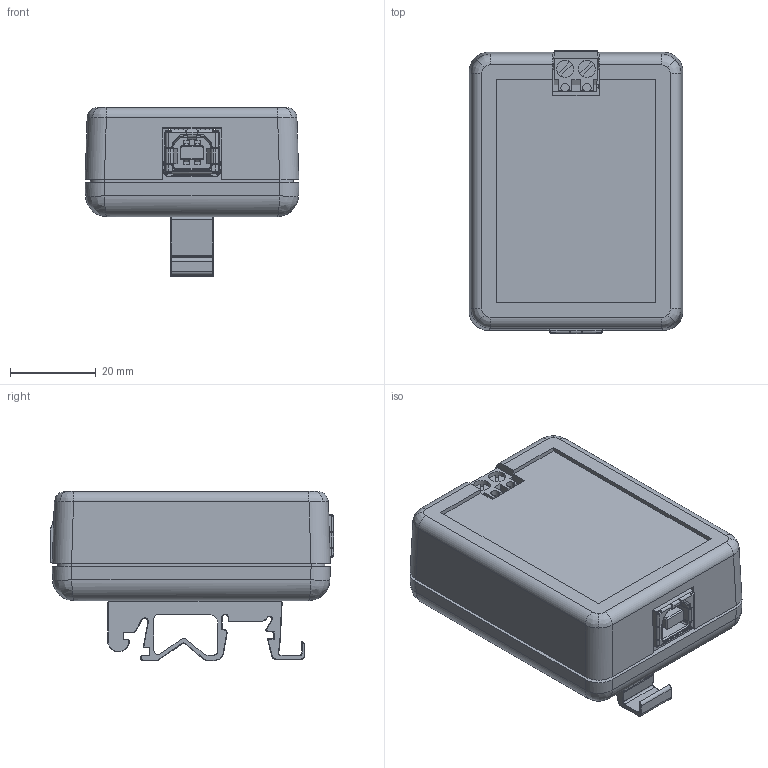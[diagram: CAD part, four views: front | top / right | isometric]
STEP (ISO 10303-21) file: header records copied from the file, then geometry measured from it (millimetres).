
FILE_DESCRIPTION (( 'STEP AP214' ), '1' );
FILE_NAME ('Mini-ADU, 2-Pos, DIN.STEP', '2018-09-24T19:41:19', ( '' ), ( '' ), 'SwSTEP 2.0', 'SolidWorks 2014', '' );
FILE_SCHEMA (( 'AUTOMOTIVE_DESIGN' ));
Length unit declared in the file: inch
Products named in the file (9): Wieland_25.163.0253.0_CAD STEP data; Circuit Board; M3  SERIES 29 LNG; 1593 Screw (19-1; MiniADU; Mini-ADU, 2-Pos, DIN; 90272A144_ZINC-PLTD STL PAN HEAD PHILLIPS MACHINE SCREW_90272A144; 1427DINCLIP; USB
Assembly tree (15 placements, depth 2):
  Mini-ADU, 2-Pos, DIN
    MiniADU
    1593 Screw (19-1  x4
    M3  SERIES 29 LNG  x4
    Circuit Board
    Wieland_25.163.0253.0_CAD STEP data
    USB
    1427DINCLIP
    90272A144_ZINC-PLTD STL PAN HEAD PHILLIPS MACHINE SCREW_90272A144  x2
Bounding box: 50 x 66.18 x 39.5 mm (x, y, z)
Volume: 37109 mm3; surface area: 38630 mm2
Topology: 15 solids, 16 shells, 2027 faces, 5400 edges, 3459 vertices
Faces by surface type: plane 1124, cylinder 511, bspline 278, cone 94, torus 16, sphere 4
Entity records: 73460 total; most frequent: CARTESIAN_POINT 24920, ORIENTED_EDGE 9682, DIRECTION 7790, EDGE_CURVE 4845, VECTOR 3172, LINE 3172, VERTEX_POINT 3110, AXIS2_PLACEMENT_3D 2309
